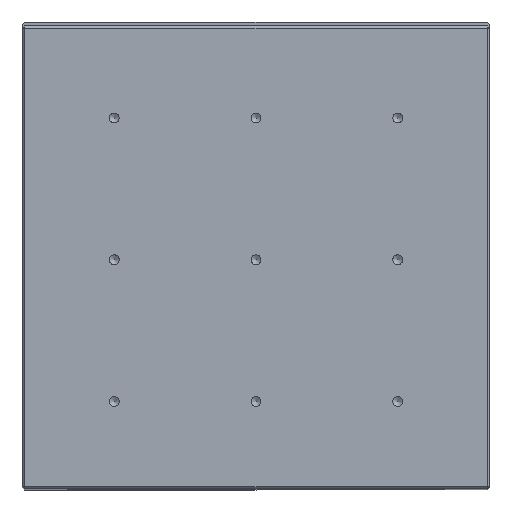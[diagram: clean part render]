
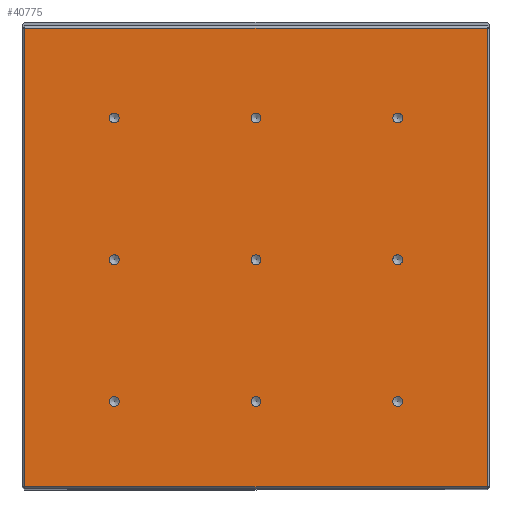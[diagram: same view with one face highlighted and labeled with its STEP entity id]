
A CAD part, top view. The second image highlights one B-rep face of the part: STEP entity #40775.
In plain terms, the highlighted planar face has unit normal (0, 0, 1).
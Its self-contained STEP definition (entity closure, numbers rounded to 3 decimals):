
#1980 = VERTEX_POINT ( 'NONE', #103165 ) ;
#3064 = DIRECTION ( 'NONE',  ( 0., 1., 0. ) ) ;
#4342 = CARTESIAN_POINT ( 'NONE',  ( 2.1, -3.5, 6. ) ) ;
#8001 = EDGE_CURVE ( 'NONE', #86040, #86040, #107898, .T. ) ;
#8262 = CARTESIAN_POINT ( 'NONE',  ( 62.1, -3.5, 6. ) ) ;
#8290 = VERTEX_POINT ( 'NONE', #85901 ) ;
#9216 = ORIENTED_EDGE ( 'NONE', *, *, #30404, .T. ) ;
#10020 = ORIENTED_EDGE ( 'NONE', *, *, #76221, .F. ) ;
#10519 = CIRCLE ( 'NONE', #95340, 2.1 ) ;
#11075 = AXIS2_PLACEMENT_3D ( 'NONE', #93247, #20036, #83605 ) ;
#11697 = VERTEX_POINT ( 'NONE', #109185 ) ;
#11714 = EDGE_LOOP ( 'NONE', ( #52811 ) ) ;
#12770 = VERTEX_POINT ( 'NONE', #114712 ) ;
#13097 = EDGE_CURVE ( 'NONE', #1980, #1980, #10519, .T. ) ;
#13506 = AXIS2_PLACEMENT_3D ( 'NONE', #15091, #78781, #24329 ) ;
#14072 = AXIS2_PLACEMENT_3D ( 'NONE', #107177, #98377, #16359 ) ;
#14944 = CIRCLE ( 'NONE', #65502, 2.1 ) ;
#15091 = CARTESIAN_POINT ( 'NONE',  ( 0., -3.5, 6. ) ) ;
#15444 = FACE_BOUND ( 'NONE', #50351, .T. ) ;
#16359 = DIRECTION ( 'NONE',  ( 1., 0., 0. ) ) ;
#16930 = FACE_OUTER_BOUND ( 'NONE', #101532, .T. ) ;
#17433 = LINE ( 'NONE', #54791, #87174 ) ;
#20036 = DIRECTION ( 'NONE',  ( 0., 0., 1. ) ) ;
#21156 = EDGE_CURVE ( 'NONE', #64837, #64837, #25460, .T. ) ;
#21243 = FACE_BOUND ( 'NONE', #64624, .T. ) ;
#23268 = VERTEX_POINT ( 'NONE', #70478 ) ;
#24329 = DIRECTION ( 'NONE',  ( 1., 0., 0. ) ) ;
#24469 = VECTOR ( 'NONE', #3064, 1000. ) ;
#25011 = CIRCLE ( 'NONE', #25620, 2.1 ) ;
#25460 = CIRCLE ( 'NONE', #11075, 2.1 ) ;
#25620 = AXIS2_PLACEMENT_3D ( 'NONE', #51436, #113935, #86354 ) ;
#28354 = EDGE_CURVE ( 'NONE', #70403, #8290, #43256, .T. ) ;
#28490 = CARTESIAN_POINT ( 'NONE',  ( -96., -99.5, 6. ) ) ;
#28599 = EDGE_LOOP ( 'NONE', ( #29564 ) ) ;
#29417 = ORIENTED_EDGE ( 'NONE', *, *, #45399, .F. ) ;
#29505 = AXIS2_PLACEMENT_3D ( 'NONE', #37047, #109777, #46155 ) ;
#29564 = ORIENTED_EDGE ( 'NONE', *, *, #59368, .F. ) ;
#29588 = EDGE_CURVE ( 'NONE', #11697, #70403, #17433, .T. ) ;
#30404 = EDGE_CURVE ( 'NONE', #81317, #8290, #72849, .T. ) ;
#31303 = DIRECTION ( 'NONE',  ( 1., 0., 0. ) ) ;
#33590 = CARTESIAN_POINT ( 'NONE',  ( -96., 95.5, 6. ) ) ;
#34076 = FACE_BOUND ( 'NONE', #80006, .T. ) ;
#37047 = CARTESIAN_POINT ( 'NONE',  ( 60., -63.5, 6. ) ) ;
#39778 = DIRECTION ( 'NONE',  ( 0., 0., 1. ) ) ;
#39847 = DIRECTION ( 'NONE',  ( 0., 0., 1. ) ) ;
#40775 = ADVANCED_FACE ( 'NONE', ( #16930, #15444, #96680, #78163, #56863, #53986, #21243, #34076, #108130, #72462 ), #98339, .F. ) ;
#43256 = LINE ( 'NONE', #58319, #75929 ) ;
#44623 = ORIENTED_EDGE ( 'NONE', *, *, #29588, .F. ) ;
#45399 = EDGE_CURVE ( 'NONE', #61809, #61809, #25011, .T. ) ;
#45552 = AXIS2_PLACEMENT_3D ( 'NONE', #98773, #54237, #80856 ) ;
#46155 = DIRECTION ( 'NONE',  ( 1., 0., 0. ) ) ;
#46420 = ORIENTED_EDGE ( 'NONE', *, *, #28354, .F. ) ;
#49107 = CARTESIAN_POINT ( 'NONE',  ( 2.1, -63.5, 6. ) ) ;
#49232 = DIRECTION ( 'NONE',  ( 1., 0., 0. ) ) ;
#49659 = EDGE_CURVE ( 'NONE', #83093, #83093, #108621, .T. ) ;
#50351 = EDGE_LOOP ( 'NONE', ( #105314 ) ) ;
#50633 = DIRECTION ( 'NONE',  ( 0., 0., 1. ) ) ;
#51436 = CARTESIAN_POINT ( 'NONE',  ( 60., 56.5, 6. ) ) ;
#52811 = ORIENTED_EDGE ( 'NONE', *, *, #21156, .F. ) ;
#53986 = FACE_BOUND ( 'NONE', #110770, .T. ) ;
#54237 = DIRECTION ( 'NONE',  ( 0., 0., 1. ) ) ;
#54791 = CARTESIAN_POINT ( 'NONE',  ( -98., 95.5, 6. ) ) ;
#56863 = FACE_BOUND ( 'NONE', #78436, .T. ) ;
#58319 = CARTESIAN_POINT ( 'NONE',  ( -96., 94.5, 6. ) ) ;
#59368 = EDGE_CURVE ( 'NONE', #103150, #103150, #63649, .T. ) ;
#59674 = ORIENTED_EDGE ( 'NONE', *, *, #49659, .F. ) ;
#59862 = LINE ( 'NONE', #28490, #92614 ) ;
#61809 = VERTEX_POINT ( 'NONE', #113130 ) ;
#62226 = EDGE_CURVE ( 'NONE', #23268, #23268, #103351, .T. ) ;
#63649 = CIRCLE ( 'NONE', #14072, 2.1 ) ;
#64624 = EDGE_LOOP ( 'NONE', ( #100783 ) ) ;
#64837 = VERTEX_POINT ( 'NONE', #75303 ) ;
#65502 = AXIS2_PLACEMENT_3D ( 'NONE', #93030, #39847, #95784 ) ;
#66769 = CARTESIAN_POINT ( 'NONE',  ( -60., 56.5, 6. ) ) ;
#69323 = DIRECTION ( 'NONE',  ( 1., 0., 0. ) ) ;
#70403 = VERTEX_POINT ( 'NONE', #74889 ) ;
#70478 = CARTESIAN_POINT ( 'NONE',  ( 62.1, -63.5, 6. ) ) ;
#71076 = CARTESIAN_POINT ( 'NONE',  ( 98., -99.5, 6. ) ) ;
#71191 = EDGE_CURVE ( 'NONE', #12770, #12770, #106661, .T. ) ;
#72462 = FACE_BOUND ( 'NONE', #115256, .T. ) ;
#72849 = LINE ( 'NONE', #94316, #24469 ) ;
#74889 = CARTESIAN_POINT ( 'NONE',  ( -98., 94.5, 6. ) ) ;
#74917 = CARTESIAN_POINT ( 'NONE',  ( -57.9, -3.5, 6. ) ) ;
#75303 = CARTESIAN_POINT ( 'NONE',  ( 2.1, 56.5, 6. ) ) ;
#75929 = VECTOR ( 'NONE', #49232, 1000. ) ;
#76221 = EDGE_CURVE ( 'NONE', #81317, #11697, #59862, .T. ) ;
#77973 = EDGE_LOOP ( 'NONE', ( #99913 ) ) ;
#78163 = FACE_BOUND ( 'NONE', #77973, .T. ) ;
#78436 = EDGE_LOOP ( 'NONE', ( #84014 ) ) ;
#78466 = DIRECTION ( 'NONE',  ( 0., 0., -1. ) ) ;
#78781 = DIRECTION ( 'NONE',  ( 0., 0., 1. ) ) ;
#80006 = EDGE_LOOP ( 'NONE', ( #102622 ) ) ;
#80856 = DIRECTION ( 'NONE',  ( 1., 0., 0. ) ) ;
#81317 = VERTEX_POINT ( 'NONE', #71076 ) ;
#83093 = VERTEX_POINT ( 'NONE', #4342 ) ;
#83605 = DIRECTION ( 'NONE',  ( 1., 0., 0. ) ) ;
#84014 = ORIENTED_EDGE ( 'NONE', *, *, #8001, .F. ) ;
#85796 = AXIS2_PLACEMENT_3D ( 'NONE', #33590, #78466, #115918 ) ;
#85901 = CARTESIAN_POINT ( 'NONE',  ( 98., 94.5, 6. ) ) ;
#86040 = VERTEX_POINT ( 'NONE', #74917 ) ;
#86354 = DIRECTION ( 'NONE',  ( 1., 0., 0. ) ) ;
#86715 = CARTESIAN_POINT ( 'NONE',  ( -60., -63.5, 6. ) ) ;
#87174 = VECTOR ( 'NONE', #113524, 1000. ) ;
#92614 = VECTOR ( 'NONE', #100483, 1000. ) ;
#93030 = CARTESIAN_POINT ( 'NONE',  ( 60., -3.5, 6. ) ) ;
#93247 = CARTESIAN_POINT ( 'NONE',  ( 0., 56.5, 6. ) ) ;
#94316 = CARTESIAN_POINT ( 'NONE',  ( 98., -100.5, 6. ) ) ;
#94948 = AXIS2_PLACEMENT_3D ( 'NONE', #66769, #39778, #31303 ) ;
#95340 = AXIS2_PLACEMENT_3D ( 'NONE', #86715, #50633, #69323 ) ;
#95784 = DIRECTION ( 'NONE',  ( 1., 0., 0. ) ) ;
#96680 = FACE_BOUND ( 'NONE', #28599, .T. ) ;
#98339 = PLANE ( 'NONE',  #85796 ) ;
#98377 = DIRECTION ( 'NONE',  ( 0., 0., 1. ) ) ;
#98773 = CARTESIAN_POINT ( 'NONE',  ( -60., -3.5, 6. ) ) ;
#99608 = VERTEX_POINT ( 'NONE', #8262 ) ;
#99913 = ORIENTED_EDGE ( 'NONE', *, *, #62226, .F. ) ;
#100483 = DIRECTION ( 'NONE',  ( -1., 0., 0. ) ) ;
#100783 = ORIENTED_EDGE ( 'NONE', *, *, #117450, .F. ) ;
#101532 = EDGE_LOOP ( 'NONE', ( #44623, #10020, #9216, #46420 ) ) ;
#102622 = ORIENTED_EDGE ( 'NONE', *, *, #71191, .F. ) ;
#103150 = VERTEX_POINT ( 'NONE', #49107 ) ;
#103165 = CARTESIAN_POINT ( 'NONE',  ( -57.9, -63.5, 6. ) ) ;
#103351 = CIRCLE ( 'NONE', #29505, 2.1 ) ;
#105314 = ORIENTED_EDGE ( 'NONE', *, *, #13097, .F. ) ;
#106661 = CIRCLE ( 'NONE', #94948, 2.1 ) ;
#107177 = CARTESIAN_POINT ( 'NONE',  ( 0., -63.5, 6. ) ) ;
#107898 = CIRCLE ( 'NONE', #45552, 2.1 ) ;
#108130 = FACE_BOUND ( 'NONE', #11714, .T. ) ;
#108621 = CIRCLE ( 'NONE', #13506, 2.1 ) ;
#109185 = CARTESIAN_POINT ( 'NONE',  ( -98., -99.5, 6. ) ) ;
#109777 = DIRECTION ( 'NONE',  ( 0., 0., 1. ) ) ;
#110770 = EDGE_LOOP ( 'NONE', ( #59674 ) ) ;
#113130 = CARTESIAN_POINT ( 'NONE',  ( 62.1, 56.5, 6. ) ) ;
#113524 = DIRECTION ( 'NONE',  ( 0., 1., 0. ) ) ;
#113935 = DIRECTION ( 'NONE',  ( 0., 0., 1. ) ) ;
#114712 = CARTESIAN_POINT ( 'NONE',  ( -57.9, 56.5, 6. ) ) ;
#115256 = EDGE_LOOP ( 'NONE', ( #29417 ) ) ;
#115918 = DIRECTION ( 'NONE',  ( -1., 0., 0. ) ) ;
#117450 = EDGE_CURVE ( 'NONE', #99608, #99608, #14944, .T. ) ;
